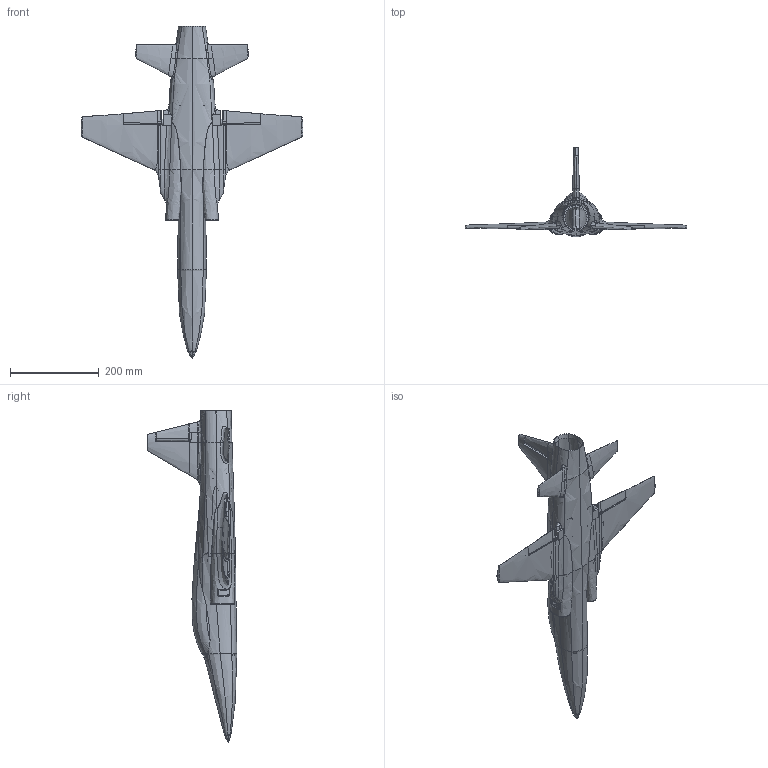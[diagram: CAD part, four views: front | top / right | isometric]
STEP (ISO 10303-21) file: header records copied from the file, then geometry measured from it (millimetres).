
FILE_DESCRIPTION(/* description */ (''),/* implementation_level */ '2;1');
FILE_NAME(/* name */ 'f5.step',/* time_stamp */ '2025-12-04T21:28:18Z',/* author */ (''),/* organization */ (''),/* preprocessor_version */ 'ST-DEVELOPER v20.1',/* originating_system */ 'Autodesk Translation Framework v14.21.0.0',/* authorisation */ '');
FILE_SCHEMA (('AUTOMOTIVE_DESIGN { 1 0 10303 214 3 1 1 }'));
Products named in the file (1): f5
Bounding box: 499.65 x 201.3 x 747.69 mm (x, y, z)
Volume: 1368904.5 mm3; surface area: 634455 mm2
Topology: 16 solids, 16 shells, 2019 faces, 5330 edges, 3302 vertices
Faces by surface type: plane 864, bspline 787, cylinder 308, sphere 52, torus 8
Full cylindrical faces by diameter (mm): 2.496 x4, 3.4 x2, 50 x1, 55.6 x1
Entity records: 151594 total; most frequent: CARTESIAN_POINT 107788, ORIENTED_EDGE 10532, DIRECTION 6634, EDGE_CURVE 5266, VERTEX_POINT 3302, LINE 2402, VECTOR 2402, AXIS2_PLACEMENT_3D 2116
